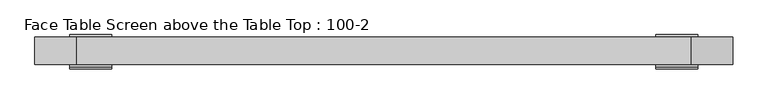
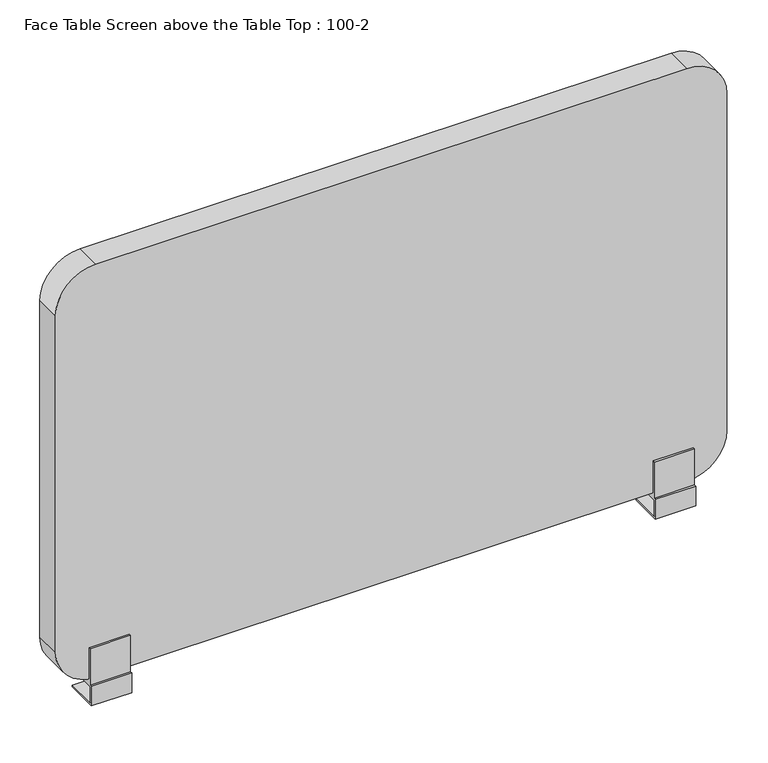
"""IFC4 building model written with IfcOpenShell, lengths in millimetres: furniture geometry, Face Table Screen above the Table Top : 100-2."""

from ifc_helpers import new_model, si_unit, point, frame, frame_2d, origin, place, context, project, spatial, polyline, circle_curve, trimmed, segment, composite_curve, outline, extrude, source, transform, mapped, element, save
from ifc_brep_helpers import plane_surface, cylinder_surface, advanced_brep


def face_table_screen_above_the_table_top_100_2_3b1e4d39(model_context):
    return source(origin(), model_context, "Body", "SolidModel", [
        advanced_brep(
        [(-425.0, 0.0, -39.4406633), (-415.0, 0.0, -39.4406633), (-415.0, 0.0, -28.0), (-425.0, 0.0, -28.0), (-450.0, 23.0, -25.0), (-450.0, -23.0, -25.0), (-390.0, -23.0, -25.0), (-390.0, 23.0, -25.0), (-450.0, -23.0, 0.0), (-450.0, 23.0, -28.0), (-450.0, -26.0, -28.0), (-450.0, -26.0, 3.0), (-450.0, -23.0, 3.0), (-450.0, -23.0, 60.0), (-450.0, -20.0, 60.0), (-450.0, -20.0, 10.0), (-450.0, 20.0, 10.0), (-450.0, 20.0, 60.0), (-450.0, 23.0, 60.0), (-450.0, 23.0, 0.0), (-390.0, -23.0, 0.0), (-390.0, 23.0, 0.0), (-390.0, 23.0, 60.0), (-390.0, 20.0, 60.0), (-390.0, 20.0, 10.0), (-390.0, -20.0, 10.0), (-390.0, -20.0, 60.0), (-390.0, -23.0, 60.0), (-390.0, -23.0, 3.0), (-390.0, -26.0, 3.0), (-390.0, -26.0, -28.0), (-390.0, 23.0, -28.0)],
        [
            (0, 1, circle_curve(frame((-420.0, 0.0, -39.4406633), z_axis=(0.0, 0.0, -1.0), x_axis=(1.0, 0.0, 0.0)), 5.0)),
            (1, 0, circle_curve(frame((-420.0, 0.0, -39.4406633), z_axis=(0.0, 0.0, -1.0), x_axis=(1.0, 0.0, 0.0)), 5.0)),
            (1, 2),
            (2, 3, circle_curve(frame((-420.0, 0.0, -28.0), z_axis=(0.0, 0.0, -1.0), x_axis=(1.0, 0.0, 0.0)), 5.0)),
            (3, 0),
            (3, 2, circle_curve(frame((-420.0, 0.0, -28.0), z_axis=(0.0, 0.0, -1.0), x_axis=(1.0, 0.0, 0.0)), 5.0)),
            (4, 5),
            (5, 6),
            (6, 7),
            (7, 4),
            (8, 5),
            (4, 9),
            (9, 10),
            (10, 11),
            (11, 12),
            (12, 13),
            (13, 14),
            (14, 15),
            (15, 16),
            (16, 17),
            (17, 18),
            (18, 19),
            (19, 8),
            (20, 21),
            (21, 22),
            (22, 23),
            (23, 24),
            (24, 25),
            (25, 26),
            (26, 27),
            (27, 28),
            (28, 29),
            (29, 30),
            (30, 31),
            (31, 7),
            (6, 20),
            (19, 21),
            (20, 8),
            (18, 22),
            (17, 23),
            (16, 24),
            (15, 25),
            (14, 26),
            (13, 27),
            (12, 28),
            (11, 29),
            (10, 30),
            (9, 31),
        ],
        [
            plane_surface(frame((-415.0, 0.0, -39.4406633), z_axis=(0.0, 0.0, -1.0), x_axis=(0.0, -1.0, 0.0))),
            cylinder_surface(frame((-420.0, 0.0, -39.4406633), z_axis=(0.0, 0.0, 1.0), x_axis=(1.0, 0.0, 0.0)), 5.0),
            plane_surface(frame((-415.0, 0.0, -25.0), z_axis=(0.0, 0.0, 1.0), x_axis=(0.0, 1.0, 0.0))),
            plane_surface(frame((-450.0, 23.0, 0.0), z_axis=(-1.0, 0.0, 0.0), x_axis=(0.0, -1.0, 0.0))),
            plane_surface(frame((-390.0, 23.0, 0.0), z_axis=(1.0, 0.0, 0.0), x_axis=(0.0, 1.0, 0.0))),
            plane_surface(frame((-390.0, -23.0, 0.0), z_axis=(0.0, 0.0, -1.0), x_axis=(-1.0, 0.0, 0.0))),
            plane_surface(frame((-390.0, 23.0, 0.0), z_axis=(0.0, 1.0, 0.0), x_axis=(-1.0, 0.0, 0.0))),
            plane_surface(frame((-390.0, 23.0, 60.0), z_axis=(0.0, 0.0, 1.0), x_axis=(-1.0, 0.0, 0.0))),
            plane_surface(frame((-390.0, 20.0, 60.0), z_axis=(0.0, -1.0, 0.0), x_axis=(-1.0, 0.0, 0.0))),
            plane_surface(frame((-390.0, 20.0, 10.0), z_axis=(0.0, 0.0, 1.0), x_axis=(-1.0, 0.0, 0.0))),
            plane_surface(frame((-390.0, -20.0, 10.0), z_axis=(0.0, 1.0, 0.0), x_axis=(-1.0, 0.0, 0.0))),
            plane_surface(frame((-390.0, -20.0, 60.0), z_axis=(0.0, 0.0, 1.0), x_axis=(-1.0, 0.0, 0.0))),
            plane_surface(frame((-390.0, -23.0, 60.0), z_axis=(0.0, -1.0, 0.0), x_axis=(-1.0, 0.0, 0.0))),
            plane_surface(frame((-390.0, -23.0, 3.0), z_axis=(0.0, 0.0, 1.0), x_axis=(-1.0, 0.0, 0.0))),
            plane_surface(frame((-390.0, -26.0, 3.0), z_axis=(0.0, -1.0, 0.0), x_axis=(-1.0, 0.0, 0.0))),
            plane_surface(frame((-390.0, -26.0, -28.0), z_axis=(0.0, 0.0, -1.0), x_axis=(-1.0, 0.0, 0.0))),
            plane_surface(frame((-390.0, 23.0, -28.0), z_axis=(0.0, 1.0, 0.0), x_axis=(-1.0, 0.0, 0.0))),
            plane_surface(frame((-390.0, -23.0, -25.0), z_axis=(0.0, 1.0, 0.0), x_axis=(-1.0, 0.0, 0.0))),
        ],
        [
            (0, [[1, 2]]),
            (1, [[-2, 3, 4, 5]]),
            (1, [[-1, -5, 6, -3]]),
            (2, [[7, 8, 9, 10]]),
            (3, [[11, -7, 12, 13, 14, 15, 16, 17, 18, 19, 20, 21, 22, 23]]),
            (4, [[24, 25, 26, 27, 28, 29, 30, 31, 32, 33, 34, 35, -9, 36]]),
            (5, [[-23, 37, -24, 38]]),
            (6, [[-22, 39, -25, -37]]),
            (7, [[-21, 40, -26, -39]]),
            (8, [[-20, 41, -27, -40]]),
            (9, [[-19, 42, -28, -41]]),
            (10, [[-18, 43, -29, -42]]),
            (11, [[-17, 44, -30, -43]]),
            (12, [[-16, 45, -31, -44]]),
            (13, [[-15, 46, -32, -45]]),
            (14, [[-14, 47, -33, -46]]),
            (15, [[-13, 48, -34, -47], [-4, -6]]),
            (16, [[-12, -10, -35, -48]]),
            (17, [[-11, -38, -36, -8]]),
        ],
    ),
        advanced_brep(
        [(415.0, 0.0, -39.4406633), (425.0, 0.0, -39.4406633), (425.0, 0.0, -28.0), (415.0, 0.0, -28.0), (390.0, 23.0, -25.0), (390.0, -23.0, -25.0), (450.0, -23.0, -25.0), (450.0, 23.0, -25.0), (390.0, -23.0, 0.0), (390.0, 23.0, -28.0), (390.0, -26.0, -28.0), (390.0, -26.0, 3.0), (390.0, -23.0, 3.0), (390.0, -23.0, 60.0), (390.0, -20.0, 60.0), (390.0, -20.0, 10.0), (390.0, 20.0, 10.0), (390.0, 20.0, 60.0), (390.0, 23.0, 60.0), (390.0, 23.0, 0.0), (450.0, -23.0, 0.0), (450.0, 23.0, 0.0), (450.0, 23.0, 60.0), (450.0, 20.0, 60.0), (450.0, 20.0, 10.0), (450.0, -20.0, 10.0), (450.0, -20.0, 60.0), (450.0, -23.0, 60.0), (450.0, -23.0, 3.0), (450.0, -26.0, 3.0), (450.0, -26.0, -28.0), (450.0, 23.0, -28.0)],
        [
            (0, 1, circle_curve(frame((420.0, 0.0, -39.4406633), z_axis=(0.0, 0.0, -1.0), x_axis=(1.0, 0.0, 0.0)), 5.0)),
            (1, 0, circle_curve(frame((420.0, 0.0, -39.4406633), z_axis=(0.0, 0.0, -1.0), x_axis=(1.0, 0.0, 0.0)), 5.0)),
            (1, 2),
            (2, 3, circle_curve(frame((420.0, 0.0, -28.0), z_axis=(0.0, 0.0, -1.0), x_axis=(1.0, 0.0, 0.0)), 5.0)),
            (3, 0),
            (3, 2, circle_curve(frame((420.0, 0.0, -28.0), z_axis=(0.0, 0.0, -1.0), x_axis=(1.0, 0.0, 0.0)), 5.0)),
            (4, 5),
            (5, 6),
            (6, 7),
            (7, 4),
            (8, 5),
            (4, 9),
            (9, 10),
            (10, 11),
            (11, 12),
            (12, 13),
            (13, 14),
            (14, 15),
            (15, 16),
            (16, 17),
            (17, 18),
            (18, 19),
            (19, 8),
            (20, 21),
            (21, 22),
            (22, 23),
            (23, 24),
            (24, 25),
            (25, 26),
            (26, 27),
            (27, 28),
            (28, 29),
            (29, 30),
            (30, 31),
            (31, 7),
            (6, 20),
            (19, 21),
            (20, 8),
            (18, 22),
            (17, 23),
            (16, 24),
            (15, 25),
            (14, 26),
            (13, 27),
            (12, 28),
            (11, 29),
            (10, 30),
            (9, 31),
        ],
        [
            plane_surface(frame((425.0, 0.0, -39.4406633), z_axis=(0.0, 0.0, -1.0), x_axis=(0.0, -1.0, 0.0))),
            cylinder_surface(frame((420.0, 0.0, -39.4406633), z_axis=(0.0, 0.0, 1.0), x_axis=(1.0, 0.0, 0.0)), 5.0),
            plane_surface(frame((425.0, 0.0, -25.0), z_axis=(0.0, 0.0, 1.0), x_axis=(0.0, 1.0, 0.0))),
            plane_surface(frame((390.0, 23.0, 0.0), z_axis=(-1.0, 0.0, 0.0), x_axis=(0.0, -1.0, 0.0))),
            plane_surface(frame((450.0, 23.0, 0.0), z_axis=(1.0, 0.0, 0.0), x_axis=(0.0, 1.0, 0.0))),
            plane_surface(frame((450.0, -23.0, 0.0), z_axis=(0.0, 0.0, -1.0), x_axis=(-1.0, 0.0, 0.0))),
            plane_surface(frame((450.0, 23.0, 0.0), z_axis=(0.0, 1.0, 0.0), x_axis=(-1.0, 0.0, 0.0))),
            plane_surface(frame((450.0, 23.0, 60.0), z_axis=(0.0, 0.0, 1.0), x_axis=(-1.0, 0.0, 0.0))),
            plane_surface(frame((450.0, 20.0, 60.0), z_axis=(0.0, -1.0, 0.0), x_axis=(-1.0, 0.0, 0.0))),
            plane_surface(frame((450.0, 20.0, 10.0), z_axis=(0.0, 0.0, 1.0), x_axis=(-1.0, 0.0, 0.0))),
            plane_surface(frame((450.0, -20.0, 10.0), z_axis=(0.0, 1.0, 0.0), x_axis=(-1.0, 0.0, 0.0))),
            plane_surface(frame((450.0, -20.0, 60.0), z_axis=(0.0, 0.0, 1.0), x_axis=(-1.0, 0.0, 0.0))),
            plane_surface(frame((450.0, -23.0, 60.0), z_axis=(0.0, -1.0, 0.0), x_axis=(-1.0, 0.0, 0.0))),
            plane_surface(frame((450.0, -23.0, 3.0), z_axis=(0.0, 0.0, 1.0), x_axis=(-1.0, 0.0, 0.0))),
            plane_surface(frame((450.0, -26.0, 3.0), z_axis=(0.0, -1.0, 0.0), x_axis=(-1.0, 0.0, 0.0))),
            plane_surface(frame((450.0, -26.0, -28.0), z_axis=(0.0, 0.0, -1.0), x_axis=(-1.0, 0.0, 0.0))),
            plane_surface(frame((450.0, 23.0, -28.0), z_axis=(0.0, 1.0, 0.0), x_axis=(-1.0, 0.0, 0.0))),
            plane_surface(frame((450.0, -23.0, -25.0), z_axis=(0.0, 1.0, 0.0), x_axis=(-1.0, 0.0, 0.0))),
        ],
        [
            (0, [[1, 2]]),
            (1, [[-2, 3, 4, 5]]),
            (1, [[-1, -5, 6, -3]]),
            (2, [[7, 8, 9, 10]]),
            (3, [[11, -7, 12, 13, 14, 15, 16, 17, 18, 19, 20, 21, 22, 23]]),
            (4, [[24, 25, 26, 27, 28, 29, 30, 31, 32, 33, 34, 35, -9, 36]]),
            (5, [[-23, 37, -24, 38]]),
            (6, [[-22, 39, -25, -37]]),
            (7, [[-21, 40, -26, -39]]),
            (8, [[-20, 41, -27, -40]]),
            (9, [[-19, 42, -28, -41]]),
            (10, [[-18, 43, -29, -42]]),
            (11, [[-17, 44, -30, -43]]),
            (12, [[-16, 45, -31, -44]]),
            (13, [[-15, 46, -32, -45]]),
            (14, [[-14, 47, -33, -46]]),
            (15, [[-13, 48, -34, -47], [-4, -6]]),
            (16, [[-12, -10, -35, -48]]),
            (17, [[-11, -38, -36, -8]]),
        ],
    ),
        extrude(outline(composite_curve([segment(polyline([(660.0, 440.0), (660.0, -440.0)]), True, "CONTINUOUS"), segment(trimmed(circle_curve(frame_2d((600.0, -440.0)), 60.0), [point((660.0, -440.0))], [point((600.0, -500.0))], False, "CARTESIAN"), True, "CONTINUOUS"), segment(polyline([(600.0, -500.0), (70.0, -500.0)]), True, "CONTINUOUS"), segment(trimmed(circle_curve(frame_2d((70.0, -440.0)), 60.0), [point((70.0, -500.0))], [point((10.0, -440.0))], False, "CARTESIAN"), True, "CONTINUOUS"), segment(polyline([(10.0, -440.0), (10.0, 440.0)]), True, "CONTINUOUS"), segment(trimmed(circle_curve(frame_2d((70.0, 440.0)), 60.0), [point((10.0, 440.0))], [point((70.0, 500.0))], False, "CARTESIAN"), True, "CONTINUOUS"), segment(polyline([(70.0, 500.0), (600.0, 500.0)]), True, "CONTINUOUS"), segment(trimmed(circle_curve(frame_2d((600.0, 440.0)), 60.0), [point((600.0, 500.0))], [point((660.0, 440.0))], False, "CARTESIAN"), True, "CONTINUOUS")], self_intersect=False)), frame((0.0, -20.0, 0.0), z_axis=(0.0, 1.0, 0.0), x_axis=(0.0, 0.0, 1.0)), (0.0, 0.0, 1.0), 40.0),
    ])


if __name__ == "__main__":
    model = new_model("IFC4")
    model_context = context("Model", 3, world=origin())
    ifc_project = project(units=[si_unit("LENGTHUNIT", "METRE", prefix="MILLI")], contexts=[model_context])
    site = spatial("IfcSite", under=ifc_project)
    building = spatial("IfcBuilding", under=site)
    placement = place(None, origin())
    face_table_screen_above_the_table_top_100_2_shape = face_table_screen_above_the_table_top_100_2_3b1e4d39(model_context)
    element("IfcFurniture", 1, ObjectType="Face Table Screen above the Table Top : 100-2", at=placement, inside=building, context=model_context, shape_type="MappedRepresentation", body=[
        mapped(face_table_screen_above_the_table_top_100_2_shape, transform((0.0, 0.0, 0.0), x_axis=(1.0, 0.0, 0.0), y_axis=(0.0, 1.0, 0.0), z_axis=(0.0, 0.0, 1.0))),
    ])
    save(model, "model.ifc")
